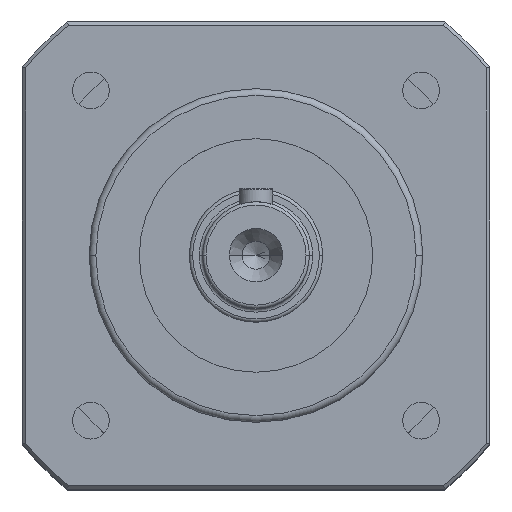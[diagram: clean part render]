
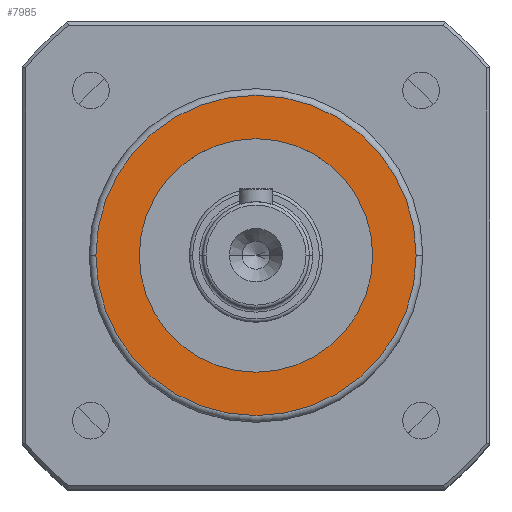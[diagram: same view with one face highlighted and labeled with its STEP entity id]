
A CAD part, top view. The second image highlights one B-rep face of the part: STEP entity #7985.
In plain terms, the highlighted planar face has unit normal (0, 0, 1).
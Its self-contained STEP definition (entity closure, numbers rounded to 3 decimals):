
#134 = CARTESIAN_POINT ( 'NONE',  ( 24., 0., 6.5 ) ) ;
#373 = CIRCLE ( 'NONE', #5766, 17.5 ) ;
#566 = AXIS2_PLACEMENT_3D ( 'NONE', #4222, #3804, #7703 ) ;
#760 = DIRECTION ( 'NONE',  ( 1., 0., 0. ) ) ;
#794 = DIRECTION ( 'NONE',  ( 1., 0., 0. ) ) ;
#839 = ORIENTED_EDGE ( 'NONE', *, *, #1918, .F. ) ;
#880 = CARTESIAN_POINT ( 'NONE',  ( -17.5, 0., 6.5 ) ) ;
#1149 = CARTESIAN_POINT ( 'NONE',  ( 0., 0., 6.5 ) ) ;
#1170 = CARTESIAN_POINT ( 'NONE',  ( 17.5, 0., 6.5 ) ) ;
#1171 = CIRCLE ( 'NONE', #566, 24. ) ;
#1504 = AXIS2_PLACEMENT_3D ( 'NONE', #1149, #2353, #760 ) ;
#1786 = VERTEX_POINT ( 'NONE', #1170 ) ;
#1799 = EDGE_LOOP ( 'NONE', ( #2028, #839 ) ) ;
#1918 = EDGE_CURVE ( 'NONE', #6201, #1786, #8031, .T. ) ;
#2028 = ORIENTED_EDGE ( 'NONE', *, *, #6637, .F. ) ;
#2353 = DIRECTION ( 'NONE',  ( 0., 0., 1. ) ) ;
#2364 = AXIS2_PLACEMENT_3D ( 'NONE', #5725, #5703, #5665 ) ;
#2776 = EDGE_LOOP ( 'NONE', ( #4715, #3708 ) ) ;
#2956 = DIRECTION ( 'NONE',  ( 0., 0., 1. ) ) ;
#3304 = CARTESIAN_POINT ( 'NONE',  ( 0., 0., 6.5 ) ) ;
#3708 = ORIENTED_EDGE ( 'NONE', *, *, #4425, .T. ) ;
#3804 = DIRECTION ( 'NONE',  ( 0., 0., 1. ) ) ;
#3947 = EDGE_CURVE ( 'NONE', #7954, #7038, #4097, .T. ) ;
#4097 = CIRCLE ( 'NONE', #2364, 24. ) ;
#4222 = CARTESIAN_POINT ( 'NONE',  ( 0., 0., 6.5 ) ) ;
#4425 = EDGE_CURVE ( 'NONE', #7038, #7954, #1171, .T. ) ;
#4567 = DIRECTION ( 'NONE',  ( 0., 0., 1. ) ) ;
#4715 = ORIENTED_EDGE ( 'NONE', *, *, #3947, .T. ) ;
#5665 = DIRECTION ( 'NONE',  ( 1., 0., 0. ) ) ;
#5703 = DIRECTION ( 'NONE',  ( 0., 0., 1. ) ) ;
#5725 = CARTESIAN_POINT ( 'NONE',  ( 0., 0., 6.5 ) ) ;
#5766 = AXIS2_PLACEMENT_3D ( 'NONE', #6722, #2956, #7389 ) ;
#5770 = PLANE ( 'NONE',  #6905 ) ;
#6201 = VERTEX_POINT ( 'NONE', #880 ) ;
#6543 = CARTESIAN_POINT ( 'NONE',  ( -24., 0., 6.5 ) ) ;
#6637 = EDGE_CURVE ( 'NONE', #1786, #6201, #373, .T. ) ;
#6722 = CARTESIAN_POINT ( 'NONE',  ( 0., 0., 6.5 ) ) ;
#6905 = AXIS2_PLACEMENT_3D ( 'NONE', #3304, #4567, #794 ) ;
#7038 = VERTEX_POINT ( 'NONE', #6543 ) ;
#7389 = DIRECTION ( 'NONE',  ( 1., 0., 0. ) ) ;
#7407 = FACE_OUTER_BOUND ( 'NONE', #2776, .T. ) ;
#7703 = DIRECTION ( 'NONE',  ( 1., 0., 0. ) ) ;
#7890 = FACE_BOUND ( 'NONE', #1799, .T. ) ;
#7954 = VERTEX_POINT ( 'NONE', #134 ) ;
#7985 = ADVANCED_FACE ( 'NONE', ( #7890, #7407 ), #5770, .T. ) ;
#8031 = CIRCLE ( 'NONE', #1504, 17.5 ) ;
